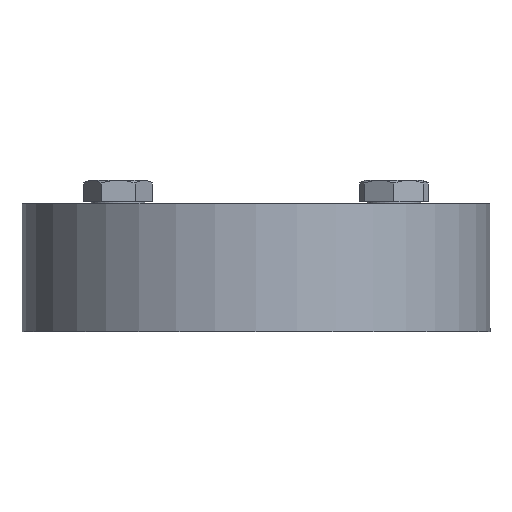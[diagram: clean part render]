
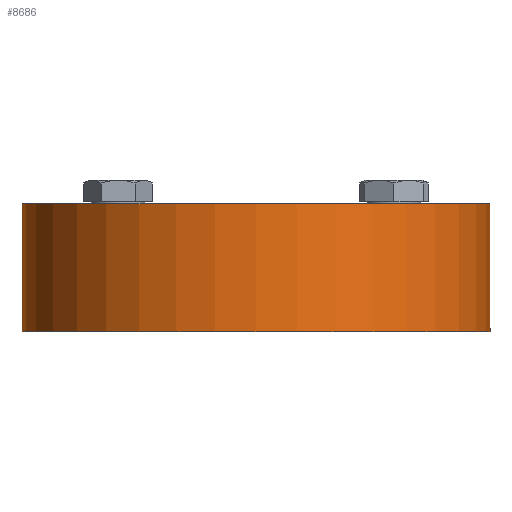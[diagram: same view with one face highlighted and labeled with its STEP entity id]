
A CAD part, front view. The second image highlights one B-rep face of the part: STEP entity #8686.
In plain terms, the highlighted cylindrical face has radius 75 mm (diameter 150 mm), a full revolution.
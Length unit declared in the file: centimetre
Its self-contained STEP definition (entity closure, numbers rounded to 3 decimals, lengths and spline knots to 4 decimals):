
#524=CYLINDRICAL_SURFACE('',#8997,7.5);
#573=FACE_BOUND('',#3563,.T.);
#3062=FACE_OUTER_BOUND('',#3562,.T.);
#3562=EDGE_LOOP('',(#7878));
#3563=EDGE_LOOP('',(#7879));
#3622=CIRCLE('',#8981,7.5);
#3627=CIRCLE('',#8998,7.5);
#4390=VERTEX_POINT('',#14992);
#4395=VERTEX_POINT('',#15014);
#5558=EDGE_CURVE('',#4390,#4390,#3622,.T.);
#5563=EDGE_CURVE('',#4395,#4395,#3627,.T.);
#7878=ORIENTED_EDGE('',*,*,#5563,.F.);
#7879=ORIENTED_EDGE('',*,*,#5558,.F.);
#8686=ADVANCED_FACE('',(#3062,#573),#524,.T.);
#8981=AXIS2_PLACEMENT_3D('',#14993,#10310,#10311);
#8997=AXIS2_PLACEMENT_3D('',#15013,#10342,#10343);
#8998=AXIS2_PLACEMENT_3D('',#15015,#10344,#10345);
#10310=DIRECTION('center_axis',(0.,0.,
1.));
#10311=DIRECTION('ref_axis',(1.,0.,0.));
#10342=DIRECTION('center_axis',(0.,0.,
1.));
#10343=DIRECTION('ref_axis',(1.,0.,0.));
#10344=DIRECTION('center_axis',(0.,0.,
-1.));
#10345=DIRECTION('ref_axis',(-1.,0.,0.));
#14992=CARTESIAN_POINT('',(-3.8734,0.0625,-12.0311));
#14993=CARTESIAN_POINT('Origin',(3.6266,0.0625,-12.0311));
#15013=CARTESIAN_POINT('Origin',(3.6266,0.0625,-12.6311));
#15014=CARTESIAN_POINT('',(11.1266,0.0625,-16.1311));
#15015=CARTESIAN_POINT('Origin',(3.6266,0.0625,-16.1311));
